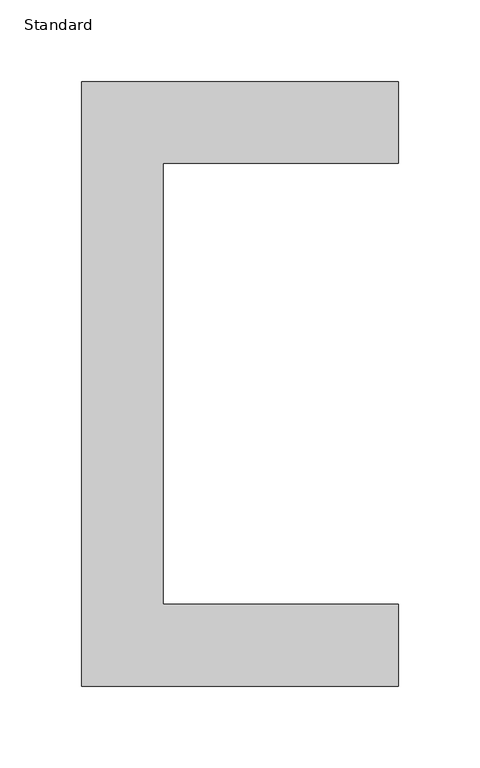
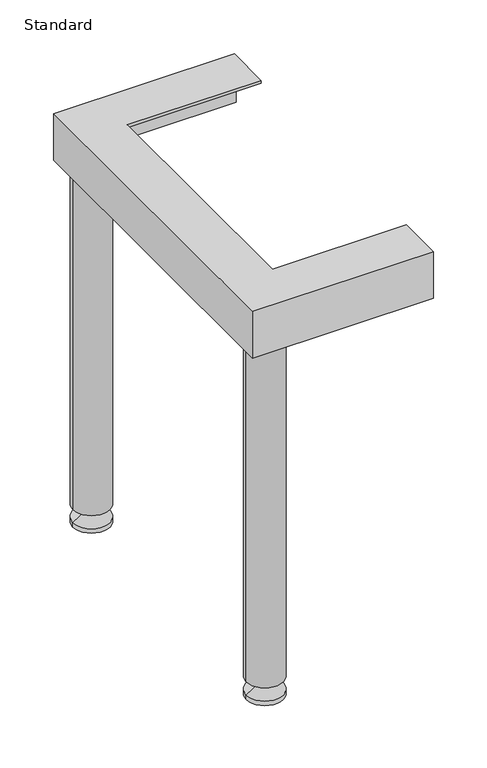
"""IFC4 building model written with IfcOpenShell, lengths in millimetres: furniture geometry, X_Bench-Foot-Duracube-Wall Assembly : Standard."""

import ifcopenshell
import ifcopenshell.guid

model = None  # the IFC model being written
_history = None  # IfcOwnerHistory: only IFC2X3 demands one
_inside = {}  # id of a spatial element -> (the spatial element, [elements in it])
_under = {}  # id of a project, library or spatial element -> (it, [spatial elements below it])
_declared = {}  # id of a project -> (the project, [libraries it declares])
_typed = {}  # id of a type object -> (the type object, [elements of that type])
_made_of = {}  # id of a material, layer set ... -> (it, [elements and type objects made of it])


def new_model(schema):
    """Start an empty IFC model of exactly this schema.

    Asked for "IFC4X3", IfcOpenShell would pick the latest addendum, in which some entities
    have other attributes; the version numbers below select the first issue.
    IFC2X3 requires an IfcOwnerHistory on every rooted entity: one is made here for all.
    """
    global model, _history
    if schema == "IFC4X3":
        model = ifcopenshell.file(schema_version=(4, 3, 0, 0))
    else:
        model = ifcopenshell.file(schema=schema)
    _inside.clear()
    _under.clear()
    _declared.clear()
    _typed.clear()
    _made_of.clear()
    _history = None
    if model.schema == "IFC2X3":
        org = make("IfcOrganization", Name="unknown")
        user = make(
            "IfcPersonAndOrganization",
            ThePerson=make("IfcPerson", FamilyName="unknown"),
            TheOrganization=org,
        )
        app = make(
            "IfcApplication",
            ApplicationDeveloper=org,
            Version="unknown",
            ApplicationFullName="unknown",
            ApplicationIdentifier="unknown",
        )
        _history = make(
            "IfcOwnerHistory",
            OwningUser=user,
            OwningApplication=app,
            ChangeAction="ADDED",
            CreationDate=0,
        )
    return model


def make(cls, **values):
    """One entity of the class cls with the attributes given. An attribute that is None is left unset."""
    return model.create_entity(
        cls, **{name: value for name, value in values.items() if value is not None}
    )


def rooted(cls, **values):
    """An entity with a GlobalId (a new one), such as an element, a storey or a relation."""
    return make(cls, GlobalId=ifcopenshell.guid.new(), OwnerHistory=_history, **values)


def si_unit(unit_type, name, prefix=None):
    """IfcSIUnit, for example si_unit("LENGTHUNIT", "METRE", prefix="MILLI")."""
    return make("IfcSIUnit", UnitType=unit_type, Prefix=prefix, Name=name)


def assignment(units):
    """IfcUnitAssignment: the units of a project."""
    return None if units is None else make("IfcUnitAssignment", Units=units)


def point(xyz):
    """IfcCartesianPoint."""
    return None if xyz is None else make("IfcCartesianPoint", Coordinates=xyz)


def direction(xyz):
    """IfcDirection."""
    return None if xyz is None else make("IfcDirection", DirectionRatios=xyz)


def frame(location, z_axis=None, x_axis=None):
    """IfcAxis2Placement3D, a coordinate frame: its origin and axes. An axis left out is left unset."""
    return make(
        "IfcAxis2Placement3D",
        Location=point(location),
        Axis=direction(z_axis),
        RefDirection=direction(x_axis),
    )


def frame_2d(location, x_axis=None):
    """IfcAxis2Placement2D, a coordinate frame in the plane: its origin and x axis."""
    return make(
        "IfcAxis2Placement2D", Location=point(location), RefDirection=direction(x_axis)
    )


def origin():
    """The frame at (0, 0, 0) with its axes left unset."""
    return frame((0.0, 0.0, 0.0))


def place(relative_to, where):
    """IfcLocalPlacement: puts the frame where relative to a parent placement (None: the world)."""
    return make(
        "IfcLocalPlacement", PlacementRelTo=relative_to, RelativePlacement=where
    )


def context(
    kind, dimensions, precision=None, world=None, true_north=None, identifier=None
):
    """IfcGeometricRepresentationContext, for example the 3D "Model" context."""
    return make(
        "IfcGeometricRepresentationContext",
        ContextIdentifier=identifier,
        ContextType=kind,
        CoordinateSpaceDimension=dimensions,
        Precision=precision,
        WorldCoordinateSystem=world,
        TrueNorth=true_north,
    )


def project(units=None, contexts=None):
    """IfcProject with its units and contexts."""
    return rooted(
        "IfcProject",
        Name="project",
        RepresentationContexts=contexts,
        UnitsInContext=assignment(units),
    )


def spatial(cls, under=None, at=None, **own):
    """A site, building, storey or space (cls), placed at a placement, below another one or the project."""
    s = rooted(cls, ObjectPlacement=at, **own)
    if under is not None:
        _under.setdefault(under.id(), (under, []))[1].append(s)
    return s


def polyline(points):
    """IfcPolyline through the points."""
    return make("IfcPolyline", Points=[point(p) for p in points])


def circle_curve(where, radius):
    """IfcCircle in the frame where."""
    return make("IfcCircle", Position=where, Radius=radius)


def trimmed(basis, trim1, trim2, sense, master):
    """IfcTrimmedCurve: the piece of a basis curve between two trims."""
    return make(
        "IfcTrimmedCurve",
        BasisCurve=basis,
        Trim1=trim1,
        Trim2=trim2,
        SenseAgreement=sense,
        MasterRepresentation=master,
    )


def segment(curve, same_sense, transition):
    """IfcCompositeCurveSegment."""
    return make(
        "IfcCompositeCurveSegment",
        Transition=transition,
        SameSense=same_sense,
        ParentCurve=curve,
    )


def composite_curve(segments, self_intersect=None):
    """IfcCompositeCurve: segments joined end to end."""
    return make("IfcCompositeCurve", Segments=segments, SelfIntersect=self_intersect)


def outline(outer, holes=None, kind="AREA"):
    """IfcArbitraryClosedProfileDef: a profile drawn as a closed curve; with holes, ...WithVoids."""
    if holes is None:
        return make("IfcArbitraryClosedProfileDef", ProfileType=kind, OuterCurve=outer)
    return make(
        "IfcArbitraryProfileDefWithVoids",
        ProfileType=kind,
        OuterCurve=outer,
        InnerCurves=holes,
    )


def extrude(swept, where, along, depth):
    """IfcExtrudedAreaSolid: the profile swept, set in the frame where, extruded along a direction by depth."""
    return make(
        "IfcExtrudedAreaSolid",
        SweptArea=swept,
        Position=where,
        ExtrudedDirection=direction(along),
        Depth=depth,
    )


def faces_of(points, faces, orient=None, outer=None):
    """IfcFace entities. A face is a list of loops; a loop is a list of indices into points, from 0.

    orient and outer hold one flag for each loop. By default every Orientation is true, the
    first loop of a face is its IfcFaceOuterBound and the others are IfcFaceBound.
    """
    made = []
    for i, loops in enumerate(faces):
        bounds = []
        for j, loop in enumerate(loops):
            is_outer = j == 0 if outer is None else outer[i][j]
            bounds.append(
                make(
                    "IfcFaceOuterBound" if is_outer else "IfcFaceBound",
                    Bound=make("IfcPolyLoop", Polygon=[points[k] for k in loop]),
                    Orientation=True if orient is None else orient[i][j],
                )
            )
        made.append(make("IfcFace", Bounds=bounds))
    return made


def faceted_brep(points, faces, orient=None, outer=None, voids=None):
    """IfcFacetedBrep: a solid bounded by flat faces; with voids (closed shells), ...WithVoids."""
    shared = [point(p) for p in points]
    hull = make("IfcClosedShell", CfsFaces=faces_of(shared, faces, orient, outer))
    if voids is None:
        return make("IfcFacetedBrep", Outer=hull)
    return make(
        "IfcFacetedBrepWithVoids",
        Outer=hull,
        Voids=[
            make(cls, CfsFaces=faces_of(shared, fs, o, b)) for cls, fs, o, b in voids
        ],
    )


def shape(context_of_items, identifier, shape_type, items):
    """IfcShapeRepresentation: the items that make up one representation, for example the "Body"."""
    return make(
        "IfcShapeRepresentation",
        ContextOfItems=context_of_items,
        RepresentationIdentifier=identifier,
        RepresentationType=shape_type,
        Items=items,
    )


def source(mapping_origin, context_of_items, identifier, shape_type, items):
    """IfcRepresentationMap: a shape defined once, which mapped items show again and again."""
    return make(
        "IfcRepresentationMap",
        MappingOrigin=mapping_origin,
        MappedRepresentation=shape(context_of_items, identifier, shape_type, items),
    )


def transform(
    local_origin,
    x_axis=None,
    y_axis=None,
    z_axis=None,
    scale=None,
    scale2=None,
    scale3=None,
    uniform=True,
):
    """IfcCartesianTransformationOperator3D, or its non-uniform kind. x_axis, y_axis, z_axis: its Axis1, 2, 3."""
    if uniform:
        return make(
            "IfcCartesianTransformationOperator3D",
            Axis1=direction(x_axis),
            Axis2=direction(y_axis),
            LocalOrigin=point(local_origin),
            Scale=scale,
            Axis3=direction(z_axis),
        )
    return make(
        "IfcCartesianTransformationOperator3DnonUniform",
        Axis1=direction(x_axis),
        Axis2=direction(y_axis),
        LocalOrigin=point(local_origin),
        Scale=scale,
        Axis3=direction(z_axis),
        Scale2=scale2,
        Scale3=scale3,
    )


def mapped(mapping_source, mapping_target):
    """IfcMappedItem: shows the shape of a source again, moved by a transform."""
    return make(
        "IfcMappedItem", MappingSource=mapping_source, MappingTarget=mapping_target
    )


def made_of(thing, what):
    """Note that an element or type object is made of a material, layer set ...; save() writes the relation."""
    if what is not None:
        _made_of.setdefault(what.id(), (what, []))[1].append(thing)
    return thing


def element(
    cls,
    number,
    at=None,
    inside=None,
    cuts=None,
    type_object=None,
    material=None,
    context=None,
    identifier="Body",
    shape_type=None,
    held_by="IfcProductDefinitionShape",
    body=None,
    shapes=None,
    **own,
):
    """One element of the class cls, such as IfcWall. Its Tag is "e" and its number.

    at: its placement. inside: the storey or other place that contains it. cuts: it is an
    opening in that element (IfcRelVoidsElement). A single representation is given by context,
    identifier, shape_type and body (its items); several are given by shapes. held_by: the class
    of the entity that holds the representations. save() writes the other relations.
    """
    e = rooted(cls, Tag="e%d" % number, ObjectPlacement=at, **own)
    if body is not None:
        shapes = [shape(context, identifier, shape_type, body)]
    if shapes is not None:
        e.Representation = make(held_by, Representations=shapes)
    if inside is not None:
        _inside.setdefault(inside.id(), (inside, []))[1].append(e)
    if cuts is not None:
        rooted(
            "IfcRelVoidsElement", RelatingBuildingElement=cuts, RelatedOpeningElement=e
        )
    if type_object is not None:
        _typed.setdefault(type_object.id(), (type_object, []))[1].append(e)
    return made_of(e, material)


def aggregate(whole, parts):
    """IfcRelAggregates: a whole, such as a stair, and the parts it consists of."""
    return rooted("IfcRelAggregates", RelatingObject=whole, RelatedObjects=parts)


def save(model, path):
    """Write the relations noted so far, then the file.

    IfcRelAggregates (storeys below a building ...), IfcRelContainedInSpatialStructure (elements
    in a storey), IfcRelDefinesByType, IfcRelAssociatesMaterial and IfcRelDeclares: one each for
    every whole, place, type object, material and project.
    """
    for whole, parts in _under.values():
        aggregate(whole, parts)
    for where, things in _inside.values():
        rooted(
            "IfcRelContainedInSpatialStructure",
            RelatedElements=things,
            RelatingStructure=where,
        )
    for kind, things in _typed.values():
        rooted("IfcRelDefinesByType", RelatedObjects=things, RelatingType=kind)
    for what, things in _made_of.values():
        rooted("IfcRelAssociatesMaterial", RelatedObjects=things, RelatingMaterial=what)
    for by, libraries in _declared.values():
        rooted("IfcRelDeclares", RelatingContext=by, RelatedDefinitions=libraries)
    model.write(path)


def plane_surface(at):
    """IfcPlane: the flat surface through the origin of the frame at, square to its z axis."""
    return make("IfcPlane", Position=at)


def cylinder_surface(at, radius):
    """IfcCylindricalSurface: all points at the distance radius from the z axis of the frame at."""
    return make("IfcCylindricalSurface", Position=at, Radius=radius)


def revolved_surface(curve, axis_point, axis_direction):
    """IfcSurfaceOfRevolution: the curve turned about the line through axis_point along axis_direction."""
    return make(
        "IfcSurfaceOfRevolution",
        SweptCurve=make("IfcArbitraryOpenProfileDef", ProfileType="CURVE", Curve=curve),
        AxisPosition=make("IfcAxis1Placement", Location=point(axis_point), Axis=direction(axis_direction)),
    )


def advanced_brep(points, edges, surfaces, faces):
    """IfcAdvancedBrep: a solid bounded by faces that lie on surfaces and meet in shared edges.

    An edge is (start, end): straight between two places in points (the first is 0);
    or (start, end, curve); or (start, end, curve, False) where it runs against its curve.
    A face is (place in surfaces, loops), or (place, loops, False) where it looks against
    its surface's normal. A loop lists edges by number (the first is 1), with a minus sign
    where the edge is run from its end to its start. The first loop is the outer one.
    """
    corners = [point(p) for p in points]
    vertices = [make("IfcVertexPoint", VertexGeometry=c) for c in corners]
    made = []
    for start, end, *more in edges:
        made.append(
            make(
                "IfcEdgeCurve",
                EdgeStart=vertices[start],
                EdgeEnd=vertices[end],
                EdgeGeometry=more[0] if more else make("IfcPolyline", Points=[corners[start], corners[end]]),
                SameSense=more[1] if len(more) > 1 else True,
            )
        )
    hull = []
    for where, loops, *sense in faces:
        bounds = []
        for j, loop in enumerate(loops):
            ring = [make("IfcOrientedEdge", EdgeElement=made[abs(k) - 1], Orientation=k > 0) for k in loop]
            bounds.append(
                make(
                    "IfcFaceOuterBound" if j == 0 else "IfcFaceBound",
                    Bound=make("IfcEdgeLoop", EdgeList=ring),
                    Orientation=True,
                )
            )
        hull.append(make("IfcAdvancedFace", Bounds=bounds, FaceSurface=surfaces[where], SameSense=sense[0] if sense else True))
    return make("IfcAdvancedBrep", Outer=make("IfcClosedShell", CfsFaces=hull))


def standard_f5ae554c(model_context):
    return source(origin(), model_context, "Body", "SolidModel", [
        advanced_brep(
        [(44.9503264, 23.75, 20.0), (40.9503264, 23.75, 20.0), (36.9503264, 23.75, 20.0), (44.9503264, 23.75, 15.0), (36.9503264, 23.75, 15.0), (60.9503264, 23.75, 5.0), (20.9503264, 23.75, 5.0), (60.9503264, 23.75, 0.0), (20.9503264, 23.75, 0.0), (40.9503264, 23.75, 0.0)],
        [
            (0, 1),
            (1, 2),
            (2, 0, circle_curve(frame((40.9503264, 23.75, 20.0), z_axis=(0.0, 0.0, 1.0), x_axis=(-1.0, 0.0, 0.0)), 4.0)),
            (0, 2, circle_curve(frame((40.9503264, 23.75, 20.0), z_axis=(0.0, 0.0, 1.0), x_axis=(-1.0, 0.0, 0.0)), 4.0)),
            (3, 0),
            (2, 4),
            (4, 3, circle_curve(frame((40.9503264, 23.75, 15.0), z_axis=(0.0, 0.0, 1.0), x_axis=(-1.0, 0.0, 0.0)), 4.0)),
            (3, 4, circle_curve(frame((40.9503264, 23.75, 15.0), z_axis=(0.0, 0.0, 1.0), x_axis=(-1.0, 0.0, 0.0)), 4.0)),
            (5, 3),
            (4, 6),
            (6, 5, circle_curve(frame((40.9503264, 23.75, 5.0), z_axis=(0.0, 0.0, 1.0), x_axis=(-1.0, 0.0, 0.0)), 20.0)),
            (5, 6, circle_curve(frame((40.9503264, 23.75, 5.0), z_axis=(0.0, 0.0, 1.0), x_axis=(-1.0, 0.0, 0.0)), 20.0)),
            (7, 5),
            (6, 8),
            (8, 7, circle_curve(frame((40.9503264, 23.75, 0.0), z_axis=(0.0, 0.0, 1.0), x_axis=(-1.0, 0.0, 0.0)), 20.0)),
            (7, 8, circle_curve(frame((40.9503264, 23.75, 0.0), z_axis=(0.0, 0.0, 1.0), x_axis=(-1.0, 0.0, 0.0)), 20.0)),
            (9, 7),
            (8, 9),
        ],
        [
            plane_surface(frame((40.9503264, 23.75, 20.0), z_axis=(0.0, 0.0, 1.0), x_axis=(-1.0, 0.0, 0.0))),
            cylinder_surface(frame((40.9503264, 23.75, 0.0), z_axis=(0.0, 0.0, -1.0), x_axis=(-1.0, 0.0, 0.0)), 4.0),
            revolved_surface(polyline([(36.9503264, 23.75, 15.0), (20.9503264, 23.75, 5.0)]), (40.9503264, 23.75, 0.0), (0.0, 0.0, -1.0)),
            cylinder_surface(frame((40.9503264, 23.75, 0.0), z_axis=(0.0, 0.0, -1.0), x_axis=(-1.0, 0.0, 0.0)), 20.0),
            plane_surface(frame((40.9503264, 23.75, 0.0), z_axis=(0.0, 0.0, -1.0), x_axis=(-1.0, 0.0, 0.0))),
        ],
        [
            (0, [[1, 2, 3]]),
            (0, [[-2, -1, 4]]),
            (1, [[5, -3, 6, 7]]),
            (1, [[-6, -4, -5, 8]]),
            (2, [[9, -7, 10, 11]]),
            (2, [[-10, -8, -9, 12]]),
            (3, [[13, -11, 14, 15]]),
            (3, [[-14, -12, -13, 16]]),
            (4, [[17, -15, 18]]),
            (4, [[-18, -16, -17]]),
        ],
    ),
        advanced_brep(
        [(44.9503264, 346.25, 20.0), (40.9503264, 346.25, 20.0), (36.9503264, 346.25, 20.0), (44.9503264, 346.25, 15.0), (36.9503264, 346.25, 15.0), (60.9503264, 346.25, 5.0), (20.9503264, 346.25, 5.0), (60.9503264, 346.25, 0.0), (20.9503264, 346.25, 0.0), (40.9503264, 346.25, 0.0)],
        [
            (0, 1),
            (1, 2),
            (2, 0, circle_curve(frame((40.9503264, 346.25, 20.0), z_axis=(0.0, 0.0, 1.0), x_axis=(-1.0, 0.0, 0.0)), 4.0)),
            (0, 2, circle_curve(frame((40.9503264, 346.25, 20.0), z_axis=(0.0, 0.0, 1.0), x_axis=(-1.0, 0.0, 0.0)), 4.0)),
            (3, 0),
            (2, 4),
            (4, 3, circle_curve(frame((40.9503264, 346.25, 15.0), z_axis=(0.0, 0.0, 1.0), x_axis=(-1.0, 0.0, 0.0)), 4.0)),
            (3, 4, circle_curve(frame((40.9503264, 346.25, 15.0), z_axis=(0.0, 0.0, 1.0), x_axis=(-1.0, 0.0, 0.0)), 4.0)),
            (5, 3),
            (4, 6),
            (6, 5, circle_curve(frame((40.9503264, 346.25, 5.0), z_axis=(0.0, 0.0, 1.0), x_axis=(-1.0, 0.0, 0.0)), 20.0)),
            (5, 6, circle_curve(frame((40.9503264, 346.25, 5.0), z_axis=(0.0, 0.0, 1.0), x_axis=(-1.0, 0.0, 0.0)), 20.0)),
            (7, 5),
            (6, 8),
            (8, 7, circle_curve(frame((40.9503264, 346.25, 0.0), z_axis=(0.0, 0.0, 1.0), x_axis=(-1.0, 0.0, 0.0)), 20.0)),
            (7, 8, circle_curve(frame((40.9503264, 346.25, 0.0), z_axis=(0.0, 0.0, 1.0), x_axis=(-1.0, 0.0, 0.0)), 20.0)),
            (9, 7),
            (8, 9),
        ],
        [
            plane_surface(frame((40.9503264, 346.25, 20.0), z_axis=(0.0, 0.0, 1.0), x_axis=(-1.0, 0.0, 0.0))),
            cylinder_surface(frame((40.9503264, 346.25, 0.0), z_axis=(0.0, 0.0, -1.0), x_axis=(-1.0, 0.0, 0.0)), 4.0),
            revolved_surface(polyline([(36.9503264, 346.25, 15.0), (20.9503264, 346.25, 5.0)]), (40.9503264, 346.25, 0.0), (0.0, 0.0, -1.0)),
            cylinder_surface(frame((40.9503264, 346.25, 0.0), z_axis=(0.0, 0.0, -1.0), x_axis=(-1.0, 0.0, 0.0)), 20.0),
            plane_surface(frame((40.9503264, 346.25, 0.0), z_axis=(0.0, 0.0, -1.0), x_axis=(-1.0, 0.0, 0.0))),
        ],
        [
            (0, [[1, 2, 3]]),
            (0, [[-2, -1, 4]]),
            (1, [[5, -3, 6, 7]]),
            (1, [[-6, -4, -5, 8]]),
            (2, [[9, -7, 10, 11]]),
            (2, [[-10, -8, -9, 12]]),
            (3, [[13, -11, 14, 15]]),
            (3, [[-14, -12, -13, 16]]),
            (4, [[17, -15, 18]]),
            (4, [[-18, -16, -17]]),
        ],
    ),
        extrude(outline(composite_curve([segment(trimmed(circle_curve(frame_2d((40.9503264, 23.75)), 20.0), [point((20.9503264, 23.75))], [point((60.9503264, 23.75))], False, "CARTESIAN"), True, "CONTINUOUS"), segment(trimmed(circle_curve(frame_2d((40.9503264, 23.75)), 20.0), [point((60.9503264, 23.75))], [point((20.9503264, 23.75))], False, "CARTESIAN"), True, "CONTINUOUS")], self_intersect=False)), frame((0.0, 0.0, 20.0), z_axis=(0.0, 0.0, 1.0), x_axis=(1.0, 0.0, 0.0)), (0.0, 0.0, 1.0), 434.0),
        extrude(outline(composite_curve([segment(trimmed(circle_curve(frame_2d((40.9503264, 346.25)), 20.0), [point((20.9503264, 346.25))], [point((60.9503264, 346.25))], False, "CARTESIAN"), True, "CONTINUOUS"), segment(trimmed(circle_curve(frame_2d((40.9503264, 346.25)), 20.0), [point((60.9503264, 346.25))], [point((20.9503264, 346.25))], False, "CARTESIAN"), True, "CONTINUOUS")], self_intersect=False)), frame((0.0, 0.0, 20.0), z_axis=(0.0, 0.0, 1.0), x_axis=(1.0, 0.0, 0.0)), (0.0, 0.0, 1.0), 434.0),
        faceted_brep([(208.2003264, 370.0, 404.0), (208.2003264, 370.0, 457.0), (208.2003264, 320.0, 457.0), (208.2003264, 320.0, 454.0), (208.2003264, 367.0, 454.0), (208.2003264, 367.0, 404.0), (17.2003264, 367.0, 404.0), (17.2003264, 3.0, 404.0), (208.2003264, 3.0, 404.0), (208.2003264, 0.0, 404.0), (14.2003264, 0.0, 404.0), (14.2003264, 370.0, 404.0), (17.2003264, 367.0, 454.0), (64.2003264, 320.0, 454.0), (64.2003264, 50.0, 454.0), (208.2003264, 50.0, 454.0), (208.2003264, 3.0, 454.0), (17.2003264, 3.0, 454.0), (64.2003264, 320.0, 457.0), (14.2003264, 370.0, 457.0), (14.2003264, 0.0, 457.0), (208.2003264, 0.0, 457.0), (208.2003264, 50.0, 457.0), (64.2003264, 50.0, 457.0)], [[[0, 1, 2, 3, 4, 5]], [[5, 6, 7, 8, 9, 10, 11, 0]], [[4, 12, 6, 5]], [[3, 13, 14, 15, 16, 17, 12, 4]], [[2, 18, 13, 3]], [[1, 19, 20, 21, 22, 23, 18, 2]], [[0, 11, 19, 1]], [[11, 10, 20, 19]], [[10, 9, 21, 20]], [[9, 8, 16, 15, 22, 21]], [[17, 16, 8, 7]], [[12, 17, 7, 6]], [[23, 22, 15, 14]], [[18, 23, 14, 13]]]),
    ])


if __name__ == "__main__":
    model = new_model("IFC4")
    model_context = context("Model", 3, world=origin())
    ifc_project = project(units=[si_unit("LENGTHUNIT", "METRE", prefix="MILLI")], contexts=[model_context])
    site = spatial("IfcSite", under=ifc_project)
    building = spatial("IfcBuilding", under=site)
    placement = place(None, origin())
    standard_shape = standard_f5ae554c(model_context)
    element("IfcFurniture", 1, ObjectType="X_Bench-Foot-Duracube-Wall Assembly : Standard", at=placement, inside=building, context=model_context, shape_type="MappedRepresentation", body=[
        mapped(standard_shape, transform((0.0, 0.0, 0.0), x_axis=(1.0, 0.0, 0.0), y_axis=(0.0, 1.0, 0.0), z_axis=(0.0, 0.0, 1.0))),
    ])
    save(model, "model.ifc")
